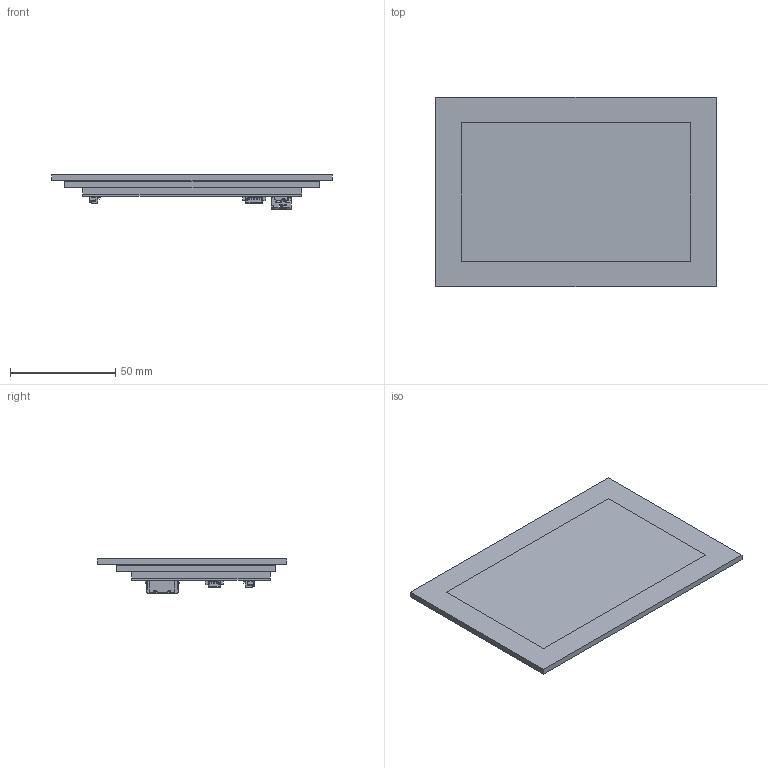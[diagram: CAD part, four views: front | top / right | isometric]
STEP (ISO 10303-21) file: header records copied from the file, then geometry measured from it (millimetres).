
FILE_DESCRIPTION (( 'STEP AP214' ), '1' );
FILE_NAME ('PDC050W-001 REV P1 STEP.STEP', '2025-10-28T21:02:29', ( '' ), ( '' ), 'SwSTEP 2.0', 'SolidWorks 2020', '' );
FILE_SCHEMA (( 'AUTOMOTIVE_DESIGN' ));
Length unit declared in the file: millimetre
Products named in the file (5): 10029449-111RLF; PDC050W-001 REV P1 STEP; 532610371; PDC050W-001 DISPLAY; 532610571
Assembly tree (4 placements, depth 2):
  PDC050W-001 REV P1 STEP
    PDC050W-001 DISPLAY
    532610371
    532610571
    10029449-111RLF
Bounding box: 133 x 89.8 x 16.46 mm (x, y, z)
Volume: 91942.4 mm3; surface area: 93302 mm2
Topology: 7 solids, 8 shells, 1967 faces, 5541 edges, 3563 vertices
Faces by surface type: plane 1632, cylinder 261, bspline 40, cone 34
Entity records: 63558 total; most frequent: CARTESIAN_POINT 13713, ORIENTED_EDGE 10958, DIRECTION 9294, EDGE_CURVE 5538, LINE 4348, VECTOR 4348, VERTEX_POINT 3563, AXIS2_PLACEMENT_3D 2473
